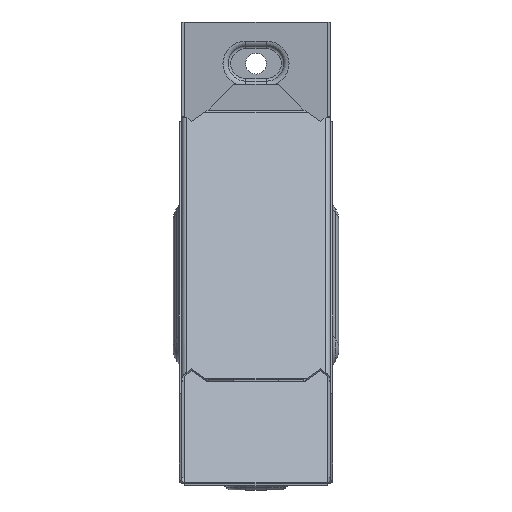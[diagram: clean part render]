
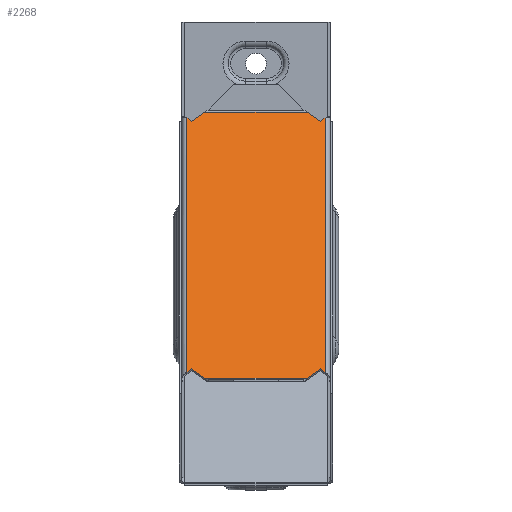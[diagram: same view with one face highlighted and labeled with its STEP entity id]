
A CAD part, front view. The second image highlights one B-rep face of the part: STEP entity #2268.
In plain terms, the highlighted planar face has unit normal (0, -0.707, 0.707).
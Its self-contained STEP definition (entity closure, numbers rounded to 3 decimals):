
#43 = LINE ( 'NONE', #6228, #1844 ) ;
#72 = EDGE_CURVE ( 'NONE', #3721, #4330, #5874, .T. ) ;
#139 = ORIENTED_EDGE ( 'NONE', *, *, #1792, .T. ) ;
#209 = DIRECTION ( 'NONE',  ( 0.707, -0.5, -0.5 ) ) ;
#346 = VECTOR ( 'NONE', #657, 1000. ) ;
#459 = CARTESIAN_POINT ( 'NONE',  ( -23.2, -27.724, -57.724 ) ) ;
#499 = FACE_OUTER_BOUND ( 'NONE', #2699, .T. ) ;
#551 = ORIENTED_EDGE ( 'NONE', *, *, #2319, .T. ) ;
#583 = PLANE ( 'NONE',  #3508 ) ;
#643 = ORIENTED_EDGE ( 'NONE', *, *, #3200, .T. ) ;
#657 = DIRECTION ( 'NONE',  ( -0.707, 0.5, 0.5 ) ) ;
#670 = CARTESIAN_POINT ( 'NONE',  ( -17.181, 59.707, 29.707 ) ) ;
#763 = EDGE_CURVE ( 'NONE', #2227, #5676, #2801, .T. ) ;
#853 = DIRECTION ( 'NONE',  ( 0., -0.707, -0.707 ) ) ;
#1025 = VECTOR ( 'NONE', #3728, 1000. ) ;
#1199 = DIRECTION ( 'NONE',  ( 0., 0.707, -0.707 ) ) ;
#1210 = DIRECTION ( 'NONE',  ( 0.707, 0.5, 0.5 ) ) ;
#1254 = DIRECTION ( 'NONE',  ( 0., -0.707, -0.707 ) ) ;
#1374 = ORIENTED_EDGE ( 'NONE', *, *, #3068, .T. ) ;
#1464 = CARTESIAN_POINT ( 'NONE',  ( -23.2, 57.724, 27.724 ) ) ;
#1479 = DIRECTION ( 'NONE',  ( -0.707, 0.5, 0.5 ) ) ;
#1487 = VERTEX_POINT ( 'NONE', #2892 ) ;
#1514 = CARTESIAN_POINT ( 'NONE',  ( 25.299, 59.208, 29.208 ) ) ;
#1528 = CARTESIAN_POINT ( 'NONE',  ( 17.181, -29.707, -59.707 ) ) ;
#1624 = CARTESIAN_POINT ( 'NONE',  ( -2.5, -40.088, -70.088 ) ) ;
#1637 = CARTESIAN_POINT ( 'NONE',  ( -21.592, 56.588, 26.588 ) ) ;
#1741 = LINE ( 'NONE', #5408, #3615 ) ;
#1772 = CARTESIAN_POINT ( 'NONE',  ( 23.2, -27.724, -57.724 ) ) ;
#1792 = EDGE_CURVE ( 'NONE', #3175, #1487, #4819, .T. ) ;
#1814 = DIRECTION ( 'NONE',  ( 0.707, -0.5, -0.5 ) ) ;
#1844 = VECTOR ( 'NONE', #3706, 1000. ) ;
#1975 = VERTEX_POINT ( 'NONE', #1772 ) ;
#2010 = CARTESIAN_POINT ( 'NONE',  ( 17.886, 59.208, 29.208 ) ) ;
#2068 = VECTOR ( 'NONE', #1254, 1000. ) ;
#2100 = ORIENTED_EDGE ( 'NONE', *, *, #4440, .T. ) ;
#2142 = VECTOR ( 'NONE', #209, 1000. ) ;
#2227 = VERTEX_POINT ( 'NONE', #6119 ) ;
#2237 = LINE ( 'NONE', #3667, #346 ) ;
#2243 = CARTESIAN_POINT ( 'NONE',  ( 17.886, -29.208, -59.208 ) ) ;
#2260 = EDGE_CURVE ( 'NONE', #4055, #6336, #2237, .T. ) ;
#2268 = ADVANCED_FACE ( 'NONE', ( #499 ), #583, .F. ) ;
#2319 = EDGE_CURVE ( 'NONE', #4949, #4055, #43, .T. ) ;
#2550 = ORIENTED_EDGE ( 'NONE', *, *, #72, .T. ) ;
#2699 = EDGE_LOOP ( 'NONE', ( #2100, #3424, #5717, #551, #4829, #1374, #2550, #643, #3718, #139, #6347, #4360 ) ) ;
#2801 = LINE ( 'NONE', #2010, #5870 ) ;
#2843 = VECTOR ( 'NONE', #853, 1000. ) ;
#2892 = CARTESIAN_POINT ( 'NONE',  ( 21.592, -26.588, -56.588 ) ) ;
#3068 = EDGE_CURVE ( 'NONE', #6336, #3721, #3069, .T. ) ;
#3069 = LINE ( 'NONE', #3253, #2068 ) ;
#3175 = VERTEX_POINT ( 'NONE', #1528 ) ;
#3200 = EDGE_CURVE ( 'NONE', #4330, #3708, #5679, .T. ) ;
#3253 = CARTESIAN_POINT ( 'NONE',  ( -23.2, 60., 30. ) ) ;
#3340 = CARTESIAN_POINT ( 'NONE',  ( 23.2, 57.724, 27.724 ) ) ;
#3356 = VECTOR ( 'NONE', #1814, 1000. ) ;
#3380 = DIRECTION ( 'NONE',  ( -1., 0., 0. ) ) ;
#3417 = CARTESIAN_POINT ( 'NONE',  ( 23.2, 60., 30. ) ) ;
#3424 = ORIENTED_EDGE ( 'NONE', *, *, #763, .T. ) ;
#3434 = CARTESIAN_POINT ( 'NONE',  ( -17.181, -29.707, -59.707 ) ) ;
#3482 = EDGE_CURVE ( 'NONE', #5676, #4949, #5037, .T. ) ;
#3508 = AXIS2_PLACEMENT_3D ( 'NONE', #5766, #1199, #4285 ) ;
#3568 = CARTESIAN_POINT ( 'NONE',  ( -21.592, -26.588, -56.588 ) ) ;
#3615 = VECTOR ( 'NONE', #3380, 1000. ) ;
#3667 = CARTESIAN_POINT ( 'NONE',  ( -25.299, 59.208, 29.208 ) ) ;
#3706 = DIRECTION ( 'NONE',  ( -0.707, -0.5, -0.5 ) ) ;
#3708 = VERTEX_POINT ( 'NONE', #3434 ) ;
#3718 = ORIENTED_EDGE ( 'NONE', *, *, #3946, .F. ) ;
#3719 = VECTOR ( 'NONE', #1210, 1000. ) ;
#3721 = VERTEX_POINT ( 'NONE', #459 ) ;
#3728 = DIRECTION ( 'NONE',  ( -1., 0., 0. ) ) ;
#3946 = EDGE_CURVE ( 'NONE', #3175, #3708, #1741, .T. ) ;
#4055 = VERTEX_POINT ( 'NONE', #1637 ) ;
#4216 = VECTOR ( 'NONE', #4455, 1000. ) ;
#4217 = CARTESIAN_POINT ( 'NONE',  ( 23.2, 59.707, 29.707 ) ) ;
#4285 = DIRECTION ( 'NONE',  ( 0., 0.707, 0.707 ) ) ;
#4330 = VERTEX_POINT ( 'NONE', #3568 ) ;
#4360 = ORIENTED_EDGE ( 'NONE', *, *, #5927, .F. ) ;
#4394 = CARTESIAN_POINT ( 'NONE',  ( -25.299, -29.208, -59.208 ) ) ;
#4440 = EDGE_CURVE ( 'NONE', #5503, #2227, #5372, .T. ) ;
#4455 = DIRECTION ( 'NONE',  ( 0.707, 0.5, 0.5 ) ) ;
#4810 = CARTESIAN_POINT ( 'NONE',  ( 25.299, -29.208, -59.208 ) ) ;
#4819 = LINE ( 'NONE', #2243, #3719 ) ;
#4829 = ORIENTED_EDGE ( 'NONE', *, *, #2260, .T. ) ;
#4932 = DIRECTION ( 'NONE',  ( -0.707, -0.5, -0.5 ) ) ;
#4949 = VERTEX_POINT ( 'NONE', #670 ) ;
#5037 = LINE ( 'NONE', #4217, #1025 ) ;
#5372 = LINE ( 'NONE', #1514, #6425 ) ;
#5408 = CARTESIAN_POINT ( 'NONE',  ( 23.2, -29.707, -59.707 ) ) ;
#5503 = VERTEX_POINT ( 'NONE', #3340 ) ;
#5507 = EDGE_CURVE ( 'NONE', #1487, #1975, #6035, .T. ) ;
#5676 = VERTEX_POINT ( 'NONE', #5780 ) ;
#5679 = LINE ( 'NONE', #1624, #2142 ) ;
#5717 = ORIENTED_EDGE ( 'NONE', *, *, #3482, .T. ) ;
#5766 = CARTESIAN_POINT ( 'NONE',  ( 23.2, 60., 30. ) ) ;
#5780 = CARTESIAN_POINT ( 'NONE',  ( 17.181, 59.707, 29.707 ) ) ;
#5842 = LINE ( 'NONE', #3417, #2843 ) ;
#5870 = VECTOR ( 'NONE', #1479, 1000. ) ;
#5874 = LINE ( 'NONE', #4394, #4216 ) ;
#5927 = EDGE_CURVE ( 'NONE', #5503, #1975, #5842, .T. ) ;
#6035 = LINE ( 'NONE', #4810, #3356 ) ;
#6119 = CARTESIAN_POINT ( 'NONE',  ( 21.592, 56.588, 26.588 ) ) ;
#6228 = CARTESIAN_POINT ( 'NONE',  ( -2.5, 70.088, 40.088 ) ) ;
#6336 = VERTEX_POINT ( 'NONE', #1464 ) ;
#6347 = ORIENTED_EDGE ( 'NONE', *, *, #5507, .T. ) ;
#6425 = VECTOR ( 'NONE', #4932, 1000. ) ;
